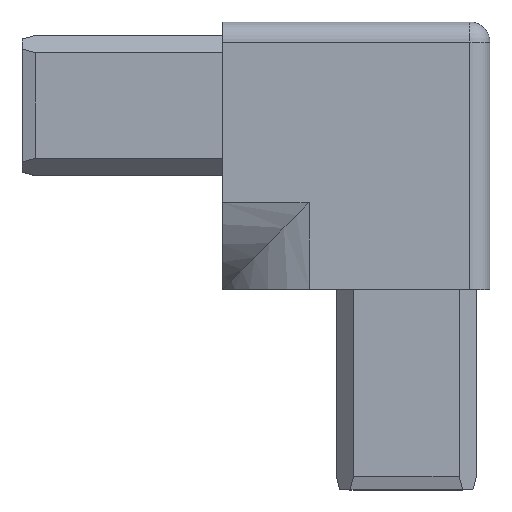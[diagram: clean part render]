
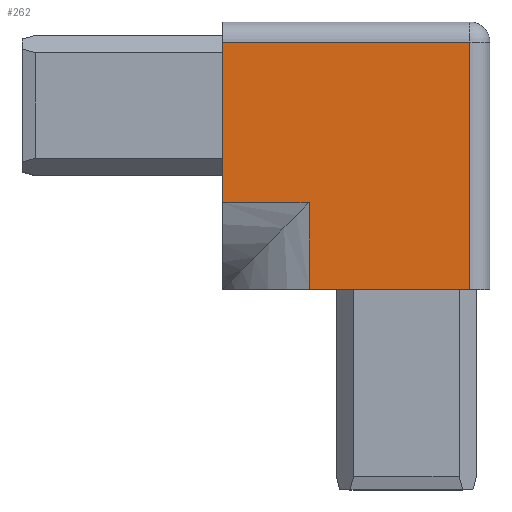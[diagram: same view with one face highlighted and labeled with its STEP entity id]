
A CAD part, top view. The second image highlights one B-rep face of the part: STEP entity #262.
In plain terms, the highlighted planar face has unit normal (0, 0, 1).
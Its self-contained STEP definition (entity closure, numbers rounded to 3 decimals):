
#56 = DIRECTION ( 'NONE',  ( 0., -1., 0. ) ) ;
#109 = VERTEX_POINT ( 'NONE', #1697 ) ;
#173 = VERTEX_POINT ( 'NONE', #935 ) ;
#262 = ADVANCED_FACE ( 'NONE', ( #513 ), #1537, .T. ) ;
#329 = VECTOR ( 'NONE', #562, 1000. ) ;
#513 = FACE_OUTER_BOUND ( 'NONE', #1995, .T. ) ;
#562 = DIRECTION ( 'NONE',  ( 0., 1., 0. ) ) ;
#610 = LINE ( 'NONE', #1696, #1133 ) ;
#667 = VERTEX_POINT ( 'NONE', #2537 ) ;
#697 = CARTESIAN_POINT ( 'NONE',  ( -27.062, 0., 25. ) ) ;
#770 = VECTOR ( 'NONE', #2303, 1000. ) ;
#874 = AXIS2_PLACEMENT_3D ( 'NONE', #2572, #2317, #2583 ) ;
#880 = DIRECTION ( 'NONE',  ( -1., 0., 0. ) ) ;
#935 = CARTESIAN_POINT ( 'NONE',  ( -40., 37., 25. ) ) ;
#985 = ORIENTED_EDGE ( 'NONE', *, *, #2389, .T. ) ;
#1072 = VECTOR ( 'NONE', #1736, 1000. ) ;
#1079 = CARTESIAN_POINT ( 'NONE',  ( -3., 40., 25. ) ) ;
#1126 = ORIENTED_EDGE ( 'NONE', *, *, #1618, .T. ) ;
#1133 = VECTOR ( 'NONE', #880, 1000. ) ;
#1153 = VERTEX_POINT ( 'NONE', #697 ) ;
#1232 = ORIENTED_EDGE ( 'NONE', *, *, #1367, .F. ) ;
#1337 = CARTESIAN_POINT ( 'NONE',  ( -3., 0., 25. ) ) ;
#1363 = ORIENTED_EDGE ( 'NONE', *, *, #2152, .T. ) ;
#1367 = EDGE_CURVE ( 'NONE', #1873, #667, #2298, .T. ) ;
#1537 = PLANE ( 'NONE',  #874 ) ;
#1558 = ORIENTED_EDGE ( 'NONE', *, *, #2014, .T. ) ;
#1618 = EDGE_CURVE ( 'NONE', #109, #173, #610, .T. ) ;
#1675 = VECTOR ( 'NONE', #2271, 1000. ) ;
#1696 = CARTESIAN_POINT ( 'NONE',  ( -40., 37., 25. ) ) ;
#1697 = CARTESIAN_POINT ( 'NONE',  ( -3., 37., 25. ) ) ;
#1736 = DIRECTION ( 'NONE',  ( -1., 0., 0. ) ) ;
#1775 = LINE ( 'NONE', #2801, #770 ) ;
#1850 = ORIENTED_EDGE ( 'NONE', *, *, #2450, .T. ) ;
#1873 = VERTEX_POINT ( 'NONE', #3114 ) ;
#1995 = EDGE_LOOP ( 'NONE', ( #1363, #1232, #1850, #985, #1558, #1126 ) ) ;
#1999 = LINE ( 'NONE', #3015, #1675 ) ;
#2014 = EDGE_CURVE ( 'NONE', #2083, #109, #2666, .T. ) ;
#2083 = VERTEX_POINT ( 'NONE', #1337 ) ;
#2152 = EDGE_CURVE ( 'NONE', #173, #667, #2352, .T. ) ;
#2271 = DIRECTION ( 'NONE',  ( 1., 0., 0. ) ) ;
#2298 = LINE ( 'NONE', #3313, #1072 ) ;
#2303 = DIRECTION ( 'NONE',  ( 0., -1., 0. ) ) ;
#2317 = DIRECTION ( 'NONE',  ( 0., 0., 1. ) ) ;
#2352 = LINE ( 'NONE', #2374, #2857 ) ;
#2374 = CARTESIAN_POINT ( 'NONE',  ( -40., 0., 25. ) ) ;
#2389 = EDGE_CURVE ( 'NONE', #1153, #2083, #1999, .T. ) ;
#2450 = EDGE_CURVE ( 'NONE', #1873, #1153, #1775, .T. ) ;
#2537 = CARTESIAN_POINT ( 'NONE',  ( -40., 12.938, 25. ) ) ;
#2572 = CARTESIAN_POINT ( 'NONE',  ( 0., 0., 25. ) ) ;
#2583 = DIRECTION ( 'NONE',  ( 1., 0., 0. ) ) ;
#2666 = LINE ( 'NONE', #1079, #329 ) ;
#2801 = CARTESIAN_POINT ( 'NONE',  ( -27.062, 38.387, 25. ) ) ;
#2857 = VECTOR ( 'NONE', #56, 1000. ) ;
#3015 = CARTESIAN_POINT ( 'NONE',  ( 0., 0., 25. ) ) ;
#3114 = CARTESIAN_POINT ( 'NONE',  ( -27.062, 12.938, 25. ) ) ;
#3313 = CARTESIAN_POINT ( 'NONE',  ( -1.613, 12.938, 25. ) ) ;
